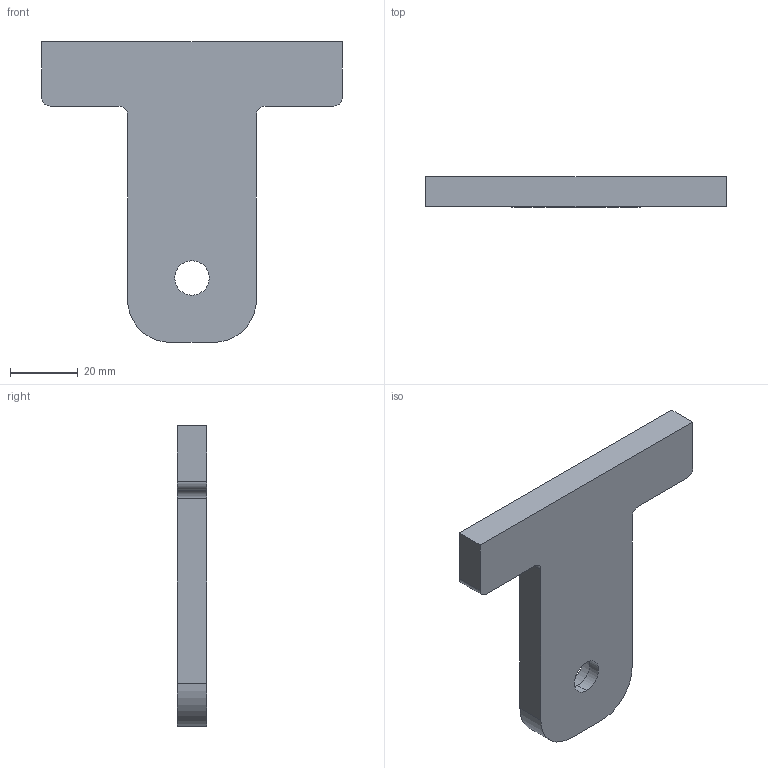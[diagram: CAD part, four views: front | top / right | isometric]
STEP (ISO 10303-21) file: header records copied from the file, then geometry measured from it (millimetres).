
FILE_DESCRIPTION (( 'STEP AP214' ), '1' );
FILE_NAME ('Crank_Support.STEP', '2015-04-16T23:59:17', ( '' ), ( '' ), 'SwSTEP 2.0', 'SolidWorks 2012', '' );
FILE_SCHEMA (( 'AUTOMOTIVE_DESIGN' ));
Length unit declared in the file: inch
Products named in the file (1): Crank_Support
Bounding box: 88.9 x 8.76 x 88.9 mm (x, y, z)
Volume: 36250.7 mm3; surface area: 11762.3 mm2
Topology: 1 solids, 1 shells, 21 faces, 54 edges, 36 vertices
Faces by surface type: plane 11, cylinder 10
Entity records: 692 total; most frequent: DIRECTION 118, CARTESIAN_POINT 112, ORIENTED_EDGE 108, EDGE_CURVE 54, AXIS2_PLACEMENT_3D 42, VERTEX_POINT 36, LINE 34, VECTOR 34
